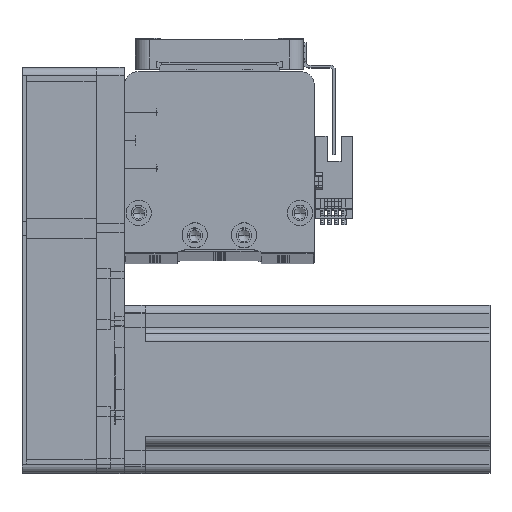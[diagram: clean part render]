
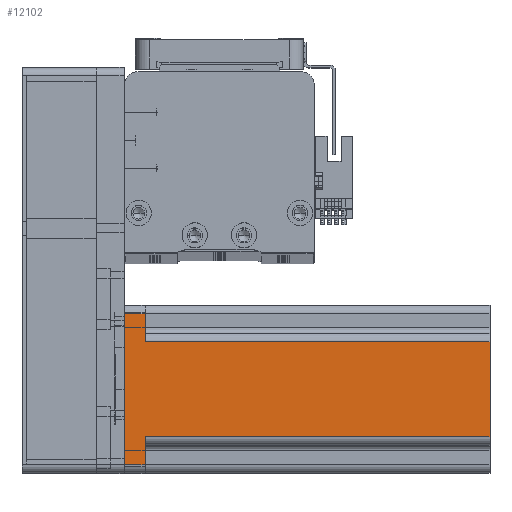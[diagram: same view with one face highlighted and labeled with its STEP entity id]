
A CAD part, top view. The second image highlights one B-rep face of the part: STEP entity #12102.
In plain terms, the highlighted planar face has unit normal (0, 0, 1) as drawn and (0, -1, 0) by its records, which use the part's own axes.
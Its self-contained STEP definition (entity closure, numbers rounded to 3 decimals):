
#1216 = VERTEX_POINT ( 'NONE', #29464 ) ;
#1440 = VECTOR ( 'NONE', #40108, 1000. ) ;
#1964 = ORIENTED_EDGE ( 'NONE', *, *, #20964, .F. ) ;
#2865 = LINE ( 'NONE', #19070, #46480 ) ;
#4471 = VECTOR ( 'NONE', #53868, 1000. ) ;
#5589 = CARTESIAN_POINT ( 'NONE',  ( -17., -30., 7.5 ) ) ;
#5675 = CARTESIAN_POINT ( 'NONE',  ( 27., -30., 130.7 ) ) ;
#5750 = VERTEX_POINT ( 'NONE', #11383 ) ;
#5842 = EDGE_CURVE ( 'NONE', #9735, #34767, #51591, .T. ) ;
#6464 = EDGE_LOOP ( 'NONE', ( #1964, #49640, #13117, #19427, #23558, #14075, #45784, #29545 ) ) ;
#9735 = VERTEX_POINT ( 'NONE', #35755 ) ;
#9933 = VECTOR ( 'NONE', #36119, 1000. ) ;
#11267 = LINE ( 'NONE', #45294, #56177 ) ;
#11383 = CARTESIAN_POINT ( 'NONE',  ( 17., -30., 130.7 ) ) ;
#11558 = FACE_OUTER_BOUND ( 'NONE', #6464, .T. ) ;
#12102 = ADVANCED_FACE ( 'NONE', ( #11558 ), #26511, .F. ) ;
#13074 = LINE ( 'NONE', #26986, #1440 ) ;
#13117 = ORIENTED_EDGE ( 'NONE', *, *, #25242, .F. ) ;
#14075 = ORIENTED_EDGE ( 'NONE', *, *, #44362, .T. ) ;
#14358 = CARTESIAN_POINT ( 'NONE',  ( 17., -30., 7.5 ) ) ;
#14724 = CARTESIAN_POINT ( 'NONE',  ( -27., -30., 130.7 ) ) ;
#15718 = EDGE_CURVE ( 'NONE', #17444, #30716, #35776, .T. ) ;
#16351 = CARTESIAN_POINT ( 'NONE',  ( 20., -30., 7.5 ) ) ;
#17444 = VERTEX_POINT ( 'NONE', #46125 ) ;
#19070 = CARTESIAN_POINT ( 'NONE',  ( 30., -30., 130.7 ) ) ;
#19081 = DIRECTION ( 'NONE',  ( 0., 0., -1. ) ) ;
#19427 = ORIENTED_EDGE ( 'NONE', *, *, #25241, .T. ) ;
#20740 = CARTESIAN_POINT ( 'NONE',  ( -17., -30., 130.7 ) ) ;
#20964 = EDGE_CURVE ( 'NONE', #17444, #5750, #2865, .T. ) ;
#21295 = EDGE_CURVE ( 'NONE', #34767, #5750, #13074, .T. ) ;
#22368 = CARTESIAN_POINT ( 'NONE',  ( 30., -30., 130.7 ) ) ;
#23558 = ORIENTED_EDGE ( 'NONE', *, *, #49150, .T. ) ;
#25241 = EDGE_CURVE ( 'NONE', #38255, #39309, #28985, .T. ) ;
#25242 = EDGE_CURVE ( 'NONE', #38255, #30716, #39228, .T. ) ;
#26511 = PLANE ( 'NONE',  #39491 ) ;
#26699 = DIRECTION ( 'NONE',  ( -1., 0., 0. ) ) ;
#26986 = CARTESIAN_POINT ( 'NONE',  ( 17., -30., 130.7 ) ) ;
#27614 = VECTOR ( 'NONE', #19081, 1000. ) ;
#28985 = LINE ( 'NONE', #14724, #27614 ) ;
#29464 = CARTESIAN_POINT ( 'NONE',  ( 27., -30., 0. ) ) ;
#29545 = ORIENTED_EDGE ( 'NONE', *, *, #21295, .T. ) ;
#29763 = VECTOR ( 'NONE', #42342, 1000. ) ;
#30716 = VERTEX_POINT ( 'NONE', #5589 ) ;
#34418 = VECTOR ( 'NONE', #38226, 1000. ) ;
#34767 = VERTEX_POINT ( 'NONE', #14358 ) ;
#35755 = CARTESIAN_POINT ( 'NONE',  ( 27., -30., 7.5 ) ) ;
#35776 = LINE ( 'NONE', #20740, #34418 ) ;
#36119 = DIRECTION ( 'NONE',  ( 0., 0., 1. ) ) ;
#38226 = DIRECTION ( 'NONE',  ( 0., 0., -1. ) ) ;
#38255 = VERTEX_POINT ( 'NONE', #53326 ) ;
#39001 = CARTESIAN_POINT ( 'NONE',  ( -27., -30., 0. ) ) ;
#39228 = LINE ( 'NONE', #49524, #4471 ) ;
#39309 = VERTEX_POINT ( 'NONE', #39001 ) ;
#39491 = AXIS2_PLACEMENT_3D ( 'NONE', #22368, #52755, #26699 ) ;
#40108 = DIRECTION ( 'NONE',  ( 0., 0., 1. ) ) ;
#42342 = DIRECTION ( 'NONE',  ( -1., 0., 0. ) ) ;
#43274 = LINE ( 'NONE', #5675, #9933 ) ;
#44362 = EDGE_CURVE ( 'NONE', #1216, #9735, #43274, .T. ) ;
#45294 = CARTESIAN_POINT ( 'NONE',  ( 30., -30., 0. ) ) ;
#45784 = ORIENTED_EDGE ( 'NONE', *, *, #5842, .T. ) ;
#46125 = CARTESIAN_POINT ( 'NONE',  ( -17., -30., 130.7 ) ) ;
#46480 = VECTOR ( 'NONE', #49514, 1000. ) ;
#49150 = EDGE_CURVE ( 'NONE', #39309, #1216, #11267, .T. ) ;
#49514 = DIRECTION ( 'NONE',  ( 1., 0., 0. ) ) ;
#49524 = CARTESIAN_POINT ( 'NONE',  ( -20., -30., 7.5 ) ) ;
#49639 = DIRECTION ( 'NONE',  ( 1., 0., 0. ) ) ;
#49640 = ORIENTED_EDGE ( 'NONE', *, *, #15718, .T. ) ;
#51591 = LINE ( 'NONE', #16351, #29763 ) ;
#52755 = DIRECTION ( 'NONE',  ( 0., 1., 0. ) ) ;
#53326 = CARTESIAN_POINT ( 'NONE',  ( -27., -30., 7.5 ) ) ;
#53868 = DIRECTION ( 'NONE',  ( 1., 0., 0. ) ) ;
#56177 = VECTOR ( 'NONE', #49639, 1000. ) ;
